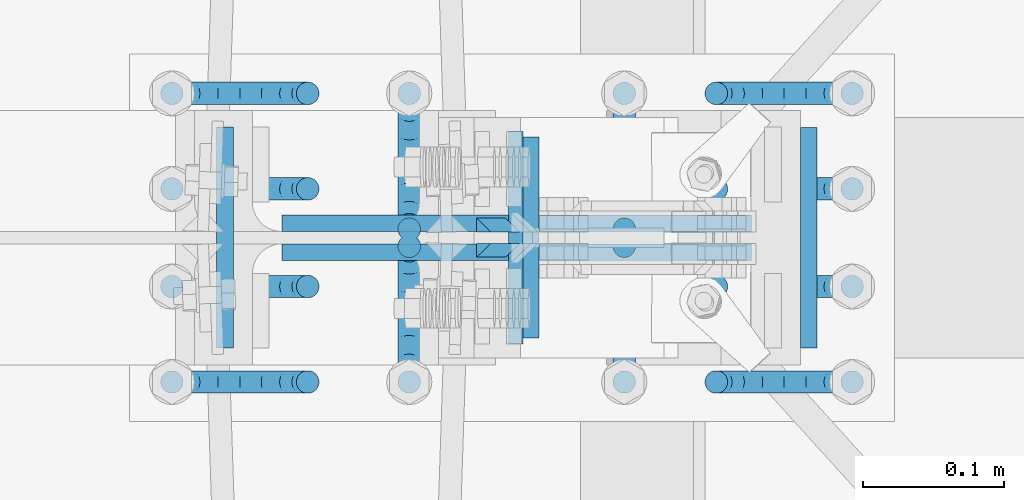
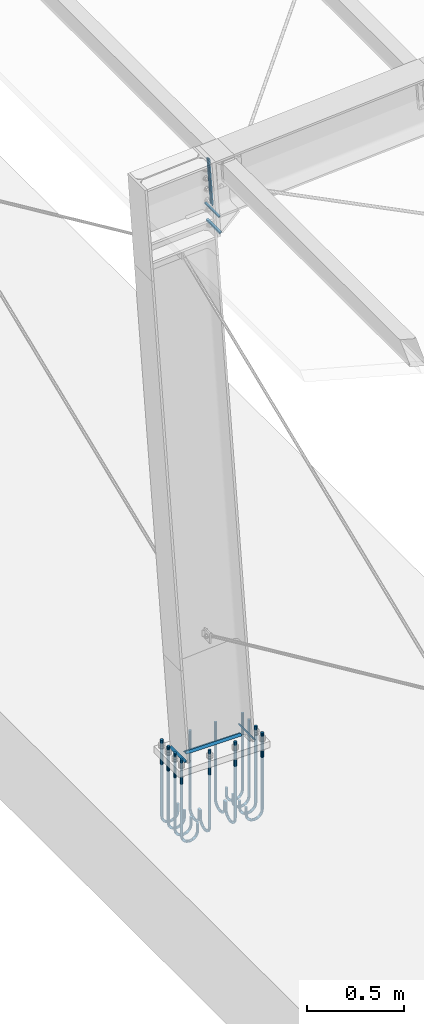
# One storey, part 19 of 72: 16 fasteners, 3 reinforcing bars.
"""IFC4 building model written with IfcOpenShell, lengths in metres."""

from ifc_helpers import new_model, entity, si_unit, frame, origin_with_axes, place, context, project, spatial, polyline, outline, extrude, source, transform, mapped, type_object, element, save


model = new_model("IFC4")

# Units and contexts
model_context = context("Model", 3, precision=1e-05, world=origin_with_axes())
ifc_project = project(units=[si_unit("LENGTHUNIT", "METRE"), si_unit("AREAUNIT", "SQUARE_METRE"), si_unit("VOLUMEUNIT", "CUBIC_METRE"), si_unit("MASSUNIT", "GRAM", prefix="KILO"), si_unit("TIMEUNIT", "SECOND"), si_unit("PLANEANGLEUNIT", "RADIAN"), si_unit("SOLIDANGLEUNIT", "STERADIAN"), si_unit("THERMODYNAMICTEMPERATUREUNIT", "DEGREE_CELSIUS")], contexts=[model_context])

# Site, building, storey
placement_1 = place(None, origin_with_axes())
site = spatial("IfcSite", under=ifc_project, at=placement_1, Name="Italia", CompositionType="ELEMENT")
building = spatial("IfcBuilding", under=site, at=placement_1, Name="Pensilina", CompositionType="ELEMENT")
storey = spatial("IfcBuildingStorey", under=building, at=placement_1, Name="Storey 0", CompositionType="ELEMENT", Elevation=0.0)

# Fasteners
fastener_type_1 = type_object("IfcFastenerType", Name="Collegamento 0004_-199", PredefinedType="WELD")
placement_2 = place(placement_1, origin_with_axes())
fastener_1_placement = place(placement_2, origin_with_axes())
element("IfcFastener", 1, at=fastener_1_placement, inside=storey, type_object=fastener_type_1, Name="Collegamento 0004_-199", context=model_context, shape_type="SweptSolid", body=[
    extrude(outline(polyline([(0.0, 0.0, 0.0), (0.0118082, 0.0121734, 0.0), (0.0118082, 0.0, 0.0), (0.0, 0.0, 0.0)])), frame((1.14428, 15.7619, 0.103658), z_axis=(0.0, 1.0, 0.0), x_axis=(-1.0, 0.0, 0.0)), (0.0, 0.0, 1.0), 0.156101),
])
fastener_type_2 = type_object("IfcFastenerType", Name="Collegamento 0004_-199", PredefinedType="WELD")
fastener_2_placement = place(placement_2, origin_with_axes())
element("IfcFastener", 2, at=fastener_2_placement, inside=storey, type_object=fastener_type_2, Name="Collegamento 0004_-199", context=model_context, shape_type="SweptSolid", body=[
    extrude(outline(polyline([(0.0, 0.0, 0.0), (0.0118082, 0.0121734, 0.0), (0.0118082, 0.0, 0.0), (0.0, 0.0, 0.0)])), frame((0.719817, 15.9181, 0.103658), z_axis=(0.0, -1.0, 0.0), x_axis=(1.0, 0.0, 0.0)), (0.0, 0.0, 1.0), 0.156101),
])
fastener_type_3 = type_object("IfcFastenerType", Name="Collegamento 0004_-199", PredefinedType="WELD")
fastener_3_placement = place(placement_2, origin_with_axes())
element("IfcFastener", 3, at=fastener_3_placement, inside=storey, type_object=fastener_type_3, Name="Collegamento 0004_-199", context=model_context, shape_type="SweptSolid", body=[
    extrude(outline(polyline([(0.0, 0.0, 0.0), (0.0118074, 0.0121734, 0.0), (0.0118074, 0.0, 0.0), (0.0, 0.0, 0.0)])), frame((0.766057, 15.8239, 0.103658), z_axis=(1.0, 0.0, 0.0), x_axis=(0.0, 1.0, 0.0)), (0.0, 0.0, 1.0), 0.331979),
])
fastener_type_4 = type_object("IfcFastenerType", Name="Collegamento 0004_-199", PredefinedType="WELD")
fastener_4_placement = place(placement_2, origin_with_axes())
element("IfcFastener", 4, at=fastener_4_placement, inside=storey, type_object=fastener_type_4, Name="Collegamento 0004_-199", context=model_context, shape_type="SweptSolid", body=[
    extrude(outline(polyline([(0.0, 0.0, 0.0), (0.0118074, 0.0121734, 0.0), (0.0118074, 0.0, 0.0), (0.0, 0.0, 0.0)])), frame((1.09804, 15.8561, 0.103658), z_axis=(-1.0, 0.0, 0.0), x_axis=(0.0, -1.0, 0.0)), (0.0, 0.0, 1.0), 0.331979),
])
fastener_type_5 = type_object("IfcFastenerType", Name="Collegamento 0004_-199", PredefinedType="WELD")
fastener_5_placement = place(placement_2, origin_with_axes())
element("IfcFastener", 5, at=fastener_5_placement, inside=storey, type_object=fastener_type_5, Name="Collegamento 0004_-199", context=model_context, shape_type="SweptSolid", body=[
    extrude(outline(polyline([(0.0, 0.0, 0.0), (0.0118082, 0.0121734, 0.0), (0.0118082, 0.0, 0.0), (0.0, 0.0, 0.0)])), frame((1.14428, 15.7619, 0.103658), z_axis=(0.0, 1.0, 0.0), x_axis=(-1.0, 0.0, 0.0)), (0.0, 0.0, 1.0), 0.156101),
])
fastener_type_6 = type_object("IfcFastenerType", Name="Collegamento 0004_-199", PredefinedType="WELD")
fastener_6_placement = place(placement_2, origin_with_axes())
element("IfcFastener", 6, at=fastener_6_placement, inside=storey, type_object=fastener_type_6, Name="Collegamento 0004_-199", context=model_context, shape_type="SweptSolid", body=[
    extrude(outline(polyline([(0.0, 0.0, 0.0), (0.0118082, 0.0121734, 0.0), (0.0118082, 0.0, 0.0), (0.0, 0.0, 0.0)])), frame((0.719817, 15.9181, 0.103658), z_axis=(0.0, -1.0, 0.0), x_axis=(1.0, 0.0, 0.0)), (0.0, 0.0, 1.0), 0.156101),
])
fastener_type_7 = type_object("IfcFastenerType", Name="Collegamento 0004_-199", PredefinedType="WELD")
fastener_7_placement = place(placement_2, origin_with_axes())
element("IfcFastener", 7, at=fastener_7_placement, inside=storey, type_object=fastener_type_7, Name="Collegamento 0004_-199", context=model_context, shape_type="SweptSolid", body=[
    extrude(outline(polyline([(0.0, 0.0, 0.0), (0.0118074, 0.0121734, 0.0), (0.0118074, 0.0, 0.0), (0.0, 0.0, 0.0)])), frame((0.766057, 15.8239, 0.103658), z_axis=(1.0, 0.0, 0.0), x_axis=(0.0, 1.0, 0.0)), (0.0, 0.0, 1.0), 0.331979),
])
fastener_type_8 = type_object("IfcFastenerType", Name="Collegamento 0004_-199", PredefinedType="WELD")
fastener_8_placement = place(placement_2, origin_with_axes())
element("IfcFastener", 8, at=fastener_8_placement, inside=storey, type_object=fastener_type_8, Name="Collegamento 0004_-199", context=model_context, shape_type="SweptSolid", body=[
    extrude(outline(polyline([(0.0, 0.0, 0.0), (0.0118074, 0.0121734, 0.0), (0.0118074, 0.0, 0.0), (0.0, 0.0, 0.0)])), frame((1.09804, 15.8561, 0.103658), z_axis=(-1.0, 0.0, 0.0), x_axis=(0.0, -1.0, 0.0)), (0.0, 0.0, 1.0), 0.331979),
])

# Reinforcing bars
shared_shape_1 = source(origin_with_axes(), model_context, "Body", "AdvancedSweptSolid", [
    entity("IfcSweptDiskSolid", entity("IfcIndexedPolyCurve", entity("IfcCartesianPointList3D", [[0.68823, 15.942, 0.153708], [0.68823, 15.942, -0.330292]]), [entity("IfcLineIndex", [1, 2])], False), 0.008),
])
reinforcing_bar_1_placement = place(placement_2, origin_with_axes())
element("IfcReinforcingBar", 9, at=reinforcing_bar_1_placement, inside=storey, BarLength=0.484, CrossSectionArea=0.00020106, NominalDiameter=0.016, context=model_context, shape_type="MappedRepresentation", body=[
    mapped(shared_shape_1, transform((0.4809, 0.0, 0.0), x_axis=(1.0, 0.0, 0.0), y_axis=(0.0, 1.0, 0.0), z_axis=(0.0, 0.0, 1.0), scale=1.0)),
    mapped(shared_shape_1, transform((0.319817, -0.204, 0.0), x_axis=(1.0, 0.0, 0.0), y_axis=(0.0, 1.0, 0.0), z_axis=(0.0, 0.0, 1.0), scale=1.0)),
    mapped(shared_shape_1, transform((0.319817, -9.53674e-07, 0.0), x_axis=(1.0, 0.0, 0.0), y_axis=(0.0, 1.0, 0.0), z_axis=(0.0, 0.0, 1.0), scale=1.0)),
    mapped(shared_shape_1, transform((0.4809, -0.204, 0.0), x_axis=(1.0, 0.0, 0.0), y_axis=(0.0, 1.0, 0.0), z_axis=(0.0, 0.0, 1.0), scale=1.0)),
    mapped(shared_shape_1, transform((0.4809, -0.1365, 0.0), x_axis=(1.0, 0.0, 0.0), y_axis=(0.0, 1.0, 0.0), z_axis=(0.0, 0.0, 1.0), scale=1.0)),
    mapped(shared_shape_1, transform((0.4809, -0.0675001, 0.0), x_axis=(1.0, 0.0, 0.0), y_axis=(0.0, 1.0, 0.0), z_axis=(0.0, 0.0, 1.0), scale=1.0)),
    mapped(shared_shape_1, transform((0.0, -0.1365, 0.0), x_axis=(1.0, 0.0, 0.0), y_axis=(0.0, 1.0, 0.0), z_axis=(0.0, 0.0, 1.0), scale=1.0)),
    mapped(shared_shape_1, transform((0.0, -0.0675001, 0.0), x_axis=(1.0, 0.0, 0.0), y_axis=(0.0, 1.0, 0.0), z_axis=(0.0, 0.0, 1.0), scale=1.0)),
    mapped(shared_shape_1, transform((0.0, 0.0, 0.0), x_axis=(1.0, 0.0, 0.0), y_axis=(0.0, 1.0, 0.0), z_axis=(0.0, 0.0, 1.0), scale=1.0)),
    mapped(shared_shape_1, transform((0.167817, -0.204, 0.0), x_axis=(1.0, 0.0, 0.0), y_axis=(0.0, 1.0, 0.0), z_axis=(0.0, 0.0, 1.0), scale=1.0)),
    mapped(shared_shape_1, transform((0.167817, -9.53674e-07, 0.0), x_axis=(1.0, 0.0, 0.0), y_axis=(0.0, 1.0, 0.0), z_axis=(0.0, 0.0, 1.0), scale=1.0)),
    mapped(shared_shape_1, transform((0.0, -0.204, 0.0), x_axis=(1.0, 0.0, 0.0), y_axis=(0.0, 1.0, 0.0), z_axis=(0.0, 0.0, 1.0), scale=1.0)),
])
shared_shape_2 = source(origin_with_axes(), model_context, "Body", "AdvancedSweptSolid", [
    entity("IfcSweptDiskSolid", entity("IfcIndexedPolyCurve", entity("IfcCartesianPointList3D", [[0.68823, 15.942, -0.330292], [0.691883, 15.942, -0.348661]]), [entity("IfcLineIndex", [1, 2])], False), 0.008),
])
reinforcing_bar_2_placement = place(placement_2, origin_with_axes())
element("IfcReinforcingBar", 10, at=reinforcing_bar_2_placement, inside=storey, BarLength=0.0187287, CrossSectionArea=0.00020106, NominalDiameter=0.016, context=model_context, shape_type="MappedRepresentation", body=[
    mapped(shared_shape_2, transform((-15.086, 16.6302, 4.30346e-05), x_axis=(0.0, -1.0, -6.24508e-05), y_axis=(1.0, 0.0, 0.0), z_axis=(0.0, -6.24508e-05, 1.0), scale=1.0)),
    mapped(shared_shape_2, transform((0.0, -0.204, 0.0), x_axis=(1.0, 0.0, 0.0), y_axis=(0.0, 1.0, 0.0), z_axis=(0.0, 0.0, 1.0), scale=1.0)),
    mapped(shared_shape_2, transform((-0.0703552, -0.0675001, -0.306886), x_axis=(0.923879, 0.0, 0.382685), y_axis=(0.0, 1.0, 0.0), z_axis=(-0.382685, 0.0, 0.923879), scale=1.0)),
    mapped(shared_shape_2, transform((-0.0703552, -0.204, -0.306886), x_axis=(0.923879, 0.0, 0.382685), y_axis=(0.0, 1.0, 0.0), z_axis=(-0.382685, 0.0, 0.923879), scale=1.0)),
    mapped(shared_shape_2, transform((0.149338, -0.0675001, -0.884083), x_axis=(0.382682, 0.0, 0.92388), y_axis=(0.0, 1.0, 0.0), z_axis=(-0.92388, 0.0, 0.382682), scale=1.0)),
    mapped(shared_shape_2, transform((-0.0179145, -0.0675001, -0.617335), x_axis=(0.707105, 0.0, 0.707108), y_axis=(0.0, 1.0, 0.0), z_axis=(-0.707108, 0.0, 0.707105), scale=1.0)),
    mapped(shared_shape_2, transform((-0.0179145, 0.0, -0.617335), x_axis=(0.707105, 0.0, 0.707108), y_axis=(0.0, 1.0, 0.0), z_axis=(-0.707108, 0.0, 0.707105), scale=1.0)),
    mapped(shared_shape_2, transform((1.29002, -0.204, -0.917183), x_axis=(-0.923881, 0.0, 0.382679), y_axis=(0.0, 1.0, 0.0), z_axis=(-0.382679, 0.0, -0.923881), scale=1.0)),
    mapped(shared_shape_2, transform((1.02327, -0.204, -1.08444), x_axis=(-0.707106, 0.0, 0.707108), y_axis=(0.0, 1.0, 0.0), z_axis=(-0.707108, 0.0, -0.707106), scale=1.0)),
    mapped(shared_shape_2, transform((0.149338, -0.204, -0.884083), x_axis=(0.382682, 0.0, 0.92388), y_axis=(0.0, 1.0, 0.0), z_axis=(-0.92388, 0.0, 0.382682), scale=1.0)),
    mapped(shared_shape_2, transform((0.405939, -0.0675001, -1.06652), x_axis=(0.0, 0.0, 1.0), y_axis=(0.0, 1.0, 0.0), z_axis=(-1.0, 0.0, 0.0), scale=1.0)),
    mapped(shared_shape_2, transform((0.712824, 0.0, -1.13688), x_axis=(-0.382684, 0.0, 0.923879), y_axis=(0.0, 1.0, 0.0), z_axis=(-0.923879, 0.0, -0.382684), scale=1.0)),
    mapped(shared_shape_2, transform((-15.086, 15.3402, -0.917173), x_axis=(0.0, 0.923889, 0.382662), y_axis=(1.0, 0.0, 0.0), z_axis=(0.0, 0.382662, -0.923889), scale=1.0)),
    mapped(shared_shape_2, transform((-15.086, 15.6069, -1.08443), x_axis=(0.0, 0.707119, 0.707095), y_axis=(1.0, 0.0, 0.0), z_axis=(0.0, 0.707095, -0.707119), scale=1.0)),
    mapped(shared_shape_2, transform((-15.086, 15.9174, -1.13688), x_axis=(0.0, 0.382666, 0.923887), y_axis=(1.0, 0.0, 0.0), z_axis=(0.0, 0.923887, -0.382666), scale=1.0)),
    mapped(shared_shape_2, transform((-14.934, 16.2243, -1.06652), x_axis=(0.0, 0.0, 1.0), y_axis=(1.0, 0.0, 0.0), z_axis=(0.0, 1.0, 0.0), scale=1.0)),
    mapped(shared_shape_2, transform((0.149338, 0.0, -0.884083), x_axis=(0.382682, 0.0, 0.92388), y_axis=(0.0, 1.0, 0.0), z_axis=(-0.92388, 0.0, 0.382682), scale=1.0)),
    mapped(shared_shape_2, transform((-15.086, 16.4809, -0.884085), x_axis=(0.0, -0.382679, 0.923881), y_axis=(1.0, 0.0, 0.0), z_axis=(0.0, 0.923881, 0.382679), scale=1.0)),
    mapped(shared_shape_2, transform((0.405939, 0.0, -1.06652), x_axis=(0.0, 0.0, 1.0), y_axis=(0.0, 1.0, 0.0), z_axis=(-1.0, 0.0, 0.0), scale=1.0)),
    mapped(shared_shape_2, transform((-0.0179145, -0.1365, -0.617335), x_axis=(0.707105, 0.0, 0.707108), y_axis=(0.0, 1.0, 0.0), z_axis=(-0.707108, 0.0, 0.707105), scale=1.0)),
    mapped(shared_shape_2, transform((-0.0703552, 0.0, -0.306886), x_axis=(0.923879, 0.0, 0.382685), y_axis=(0.0, 1.0, 0.0), z_axis=(-0.382685, 0.0, 0.923879), scale=1.0)),
    mapped(shared_shape_2, transform((-15.086, 16.6481, -0.617336), x_axis=(0.0, -0.707104, 0.70711), y_axis=(1.0, 0.0, 0.0), z_axis=(0.0, 0.70711, 0.707104), scale=1.0)),
    mapped(shared_shape_2, transform((0.712824, -0.204, -1.13688), x_axis=(-0.382684, 0.0, 0.923879), y_axis=(0.0, 1.0, 0.0), z_axis=(-0.923879, 0.0, -0.382684), scale=1.0)),
    mapped(shared_shape_2, transform((1.02327, -0.1365, -1.08444), x_axis=(-0.707106, 0.0, 0.707108), y_axis=(0.0, 1.0, 0.0), z_axis=(-0.707108, 0.0, -0.707106), scale=1.0)),
    mapped(shared_shape_2, transform((0.149338, -0.1365, -0.884083), x_axis=(0.382682, 0.0, 0.92388), y_axis=(0.0, 1.0, 0.0), z_axis=(-0.92388, 0.0, 0.382682), scale=1.0)),
    mapped(shared_shape_2, transform((-14.934, 15.3402, -0.917173), x_axis=(0.0, 0.923889, 0.382662), y_axis=(1.0, 0.0, 0.0), z_axis=(0.0, 0.382662, -0.923889), scale=1.0)),
    mapped(shared_shape_2, transform((-0.0179145, -0.204, -0.617335), x_axis=(0.707105, 0.0, 0.707108), y_axis=(0.0, 1.0, 0.0), z_axis=(-0.707108, 0.0, 0.707105), scale=1.0)),
    mapped(shared_shape_2, transform((0.0, -0.1365, 0.0), x_axis=(1.0, 0.0, 0.0), y_axis=(0.0, 1.0, 0.0), z_axis=(0.0, 0.0, 1.0), scale=1.0)),
    mapped(shared_shape_2, transform((0.405939, -0.204, -1.06652), x_axis=(0.0, 0.0, 1.0), y_axis=(0.0, 1.0, 0.0), z_axis=(-1.0, 0.0, 0.0), scale=1.0)),
    mapped(shared_shape_2, transform((1.29002, -0.1365, -0.917183), x_axis=(-0.923881, 0.0, 0.382679), y_axis=(0.0, 1.0, 0.0), z_axis=(-0.382679, 0.0, -0.923881), scale=1.0)),
    mapped(shared_shape_2, transform((0.712824, -0.1365, -1.13688), x_axis=(-0.382684, 0.0, 0.923879), y_axis=(0.0, 1.0, 0.0), z_axis=(-0.923879, 0.0, -0.382684), scale=1.0)),
    mapped(shared_shape_2, transform((1.02327, -0.0675001, -1.08444), x_axis=(-0.707106, 0.0, 0.707108), y_axis=(0.0, 1.0, 0.0), z_axis=(-0.707108, 0.0, -0.707106), scale=1.0)),
    mapped(shared_shape_2, transform((0.405939, -0.1365, -1.06652), x_axis=(0.0, 0.0, 1.0), y_axis=(0.0, 1.0, 0.0), z_axis=(-1.0, 0.0, 0.0), scale=1.0)),
    mapped(shared_shape_2, transform((1.29002, -0.0675001, -0.917183), x_axis=(-0.923881, 0.0, 0.382679), y_axis=(0.0, 1.0, 0.0), z_axis=(-0.382679, 0.0, -0.923881), scale=1.0)),
    mapped(shared_shape_2, transform((-15.086, 16.2243, -1.06652), x_axis=(0.0, 0.0, 1.0), y_axis=(1.0, 0.0, 0.0), z_axis=(0.0, 1.0, 0.0), scale=1.0)),
    mapped(shared_shape_2, transform((-14.934, 16.7006, -0.306903), x_axis=(0.0, -0.923871, 0.382705), y_axis=(1.0, 0.0, 0.0), z_axis=(0.0, 0.382705, 0.923871), scale=1.0)),
    mapped(shared_shape_2, transform((-14.934, 16.4809, -0.884085), x_axis=(0.0, -0.382679, 0.923881), y_axis=(1.0, 0.0, 0.0), z_axis=(0.0, 0.923881, 0.382679), scale=1.0)),
    mapped(shared_shape_2, transform((-14.934, 16.6481, -0.617336), x_axis=(0.0, -0.707104, 0.70711), y_axis=(1.0, 0.0, 0.0), z_axis=(0.0, 0.70711, 0.707104), scale=1.0)),
    mapped(shared_shape_2, transform((-14.934, 16.6302, 4.30346e-05), x_axis=(0.0, -1.0, -6.24508e-05), y_axis=(1.0, 0.0, 0.0), z_axis=(0.0, -6.24508e-05, 1.0), scale=1.0)),
    mapped(shared_shape_2, transform((-0.0703552, -0.1365, -0.306886), x_axis=(0.923879, 0.0, 0.382685), y_axis=(0.0, 1.0, 0.0), z_axis=(-0.382685, 0.0, 0.923879), scale=1.0)),
    mapped(shared_shape_2, transform((0.0, 0.0, 0.0), x_axis=(1.0, 0.0, 0.0), y_axis=(0.0, 1.0, 0.0), z_axis=(0.0, 0.0, 1.0), scale=1.0)),
    mapped(shared_shape_2, transform((0.0, -0.0675001, 0.0), x_axis=(1.0, 0.0, 0.0), y_axis=(0.0, 1.0, 0.0), z_axis=(0.0, 0.0, 1.0), scale=1.0)),
    mapped(shared_shape_2, transform((-14.934, 15.6069, -1.08443), x_axis=(0.0, 0.707119, 0.707095), y_axis=(1.0, 0.0, 0.0), z_axis=(0.0, 0.707095, -0.707119), scale=1.0)),
    mapped(shared_shape_2, transform((-14.934, 15.9174, -1.13688), x_axis=(0.0, 0.382666, 0.923887), y_axis=(1.0, 0.0, 0.0), z_axis=(0.0, 0.923887, -0.382666), scale=1.0)),
    mapped(shared_shape_2, transform((0.567341, 31.7475, -0.917186), x_axis=(0.923879, 0.0, 0.382685), y_axis=(0.0, -1.0, 0.0), z_axis=(0.382685, 0.0, -0.923879), scale=1.0)),
    mapped(shared_shape_2, transform((0.567341, 31.8165, -0.917186), x_axis=(0.923879, 0.0, 0.382685), y_axis=(0.0, -1.0, 0.0), z_axis=(0.382685, 0.0, -0.923879), scale=1.0)),
    mapped(shared_shape_2, transform((0.567341, 31.68, -0.917186), x_axis=(0.923879, 0.0, 0.382685), y_axis=(0.0, -1.0, 0.0), z_axis=(0.382685, 0.0, -0.923879), scale=1.0)),
    mapped(shared_shape_2, transform((0.567341, 31.884, -0.917186), x_axis=(0.923879, 0.0, 0.382685), y_axis=(0.0, -1.0, 0.0), z_axis=(0.382685, 0.0, -0.923879), scale=1.0)),
    mapped(shared_shape_2, transform((0.712824, -0.0675001, -1.13688), x_axis=(-0.382684, 0.0, 0.923879), y_axis=(0.0, 1.0, 0.0), z_axis=(-0.923879, 0.0, -0.382684), scale=1.0)),
    mapped(shared_shape_2, transform((1.14454, 31.8165, -1.13688), x_axis=(0.382683, 0.0, 0.92388), y_axis=(0.0, -1.0, 0.0), z_axis=(0.92388, 0.0, -0.382683), scale=1.0)),
    mapped(shared_shape_2, transform((0.834084, 31.7475, -1.08443), x_axis=(0.707111, 0.0, 0.707102), y_axis=(0.0, -1.0, 0.0), z_axis=(0.707102, 0.0, -0.707111), scale=1.0)),
    mapped(shared_shape_2, transform((1.29002, 0.0, -0.917183), x_axis=(-0.923881, 0.0, 0.382679), y_axis=(0.0, 1.0, 0.0), z_axis=(-0.382679, 0.0, -0.923881), scale=1.0)),
    mapped(shared_shape_2, transform((0.834084, 31.68, -1.08443), x_axis=(0.707111, 0.0, 0.707102), y_axis=(0.0, -1.0, 0.0), z_axis=(0.707102, 0.0, -0.707111), scale=1.0)),
    mapped(shared_shape_2, transform((0.834084, 31.884, -1.08443), x_axis=(0.707111, 0.0, 0.707102), y_axis=(0.0, -1.0, 0.0), z_axis=(0.707102, 0.0, -0.707111), scale=1.0)),
    mapped(shared_shape_2, transform((1.02327, 0.0, -1.08444), x_axis=(-0.707106, 0.0, 0.707108), y_axis=(0.0, 1.0, 0.0), z_axis=(-0.707108, 0.0, -0.707106), scale=1.0)),
    mapped(shared_shape_2, transform((16.798, 15.0498, 4.30346e-05), x_axis=(0.0, 1.0, -6.24508e-05), y_axis=(-1.0, 0.0, 0.0), z_axis=(0.0, 6.24508e-05, 1.0), scale=1.0)),
    mapped(shared_shape_2, transform((16.798, 14.9794, -0.306903), x_axis=(0.0, 0.923871, 0.382705), y_axis=(-1.0, 0.0, 0.0), z_axis=(0.0, -0.382705, 0.923871), scale=1.0)),
    mapped(shared_shape_2, transform((16.798, 15.0319, -0.617336), x_axis=(0.0, 0.707104, 0.70711), y_axis=(-1.0, 0.0, 0.0), z_axis=(0.0, -0.70711, 0.707104), scale=1.0)),
    mapped(shared_shape_2, transform((16.95, 15.0498, 4.30346e-05), x_axis=(0.0, 1.0, -6.24508e-05), y_axis=(-1.0, 0.0, 0.0), z_axis=(0.0, 6.24508e-05, 1.0), scale=1.0)),
    mapped(shared_shape_2, transform((1.87528, 31.68, -0.617331), x_axis=(-0.707109, 0.0, 0.707105), y_axis=(0.0, -1.0, 0.0), z_axis=(0.707105, 0.0, 0.707109), scale=1.0)),
    mapped(shared_shape_2, transform((16.95, 15.0319, -0.617336), x_axis=(0.0, 0.707104, 0.70711), y_axis=(-1.0, 0.0, 0.0), z_axis=(0.0, -0.70711, 0.707104), scale=1.0)),
    mapped(shared_shape_2, transform((16.798, 15.1991, -0.884085), x_axis=(0.0, 0.382679, 0.923881), y_axis=(-1.0, 0.0, 0.0), z_axis=(0.0, -0.923881, 0.382679), scale=1.0)),
    mapped(shared_shape_2, transform((16.95, 14.9794, -0.306903), x_axis=(0.0, 0.923871, 0.382705), y_axis=(-1.0, 0.0, 0.0), z_axis=(0.0, -0.382705, 0.923871), scale=1.0)),
    mapped(shared_shape_2, transform((1.70802, 31.68, -0.884083), x_axis=(-0.382682, 0.0, 0.92388), y_axis=(0.0, -1.0, 0.0), z_axis=(0.92388, 0.0, 0.382682), scale=1.0)),
    mapped(shared_shape_2, transform((16.95, 15.1991, -0.884085), x_axis=(0.0, 0.382679, 0.923881), y_axis=(-1.0, 0.0, 0.0), z_axis=(0.0, -0.923881, 0.382679), scale=1.0)),
    mapped(shared_shape_2, transform((16.798, 15.4557, -1.06652), x_axis=(0.0, 0.0, 1.0), y_axis=(-1.0, 0.0, 0.0), z_axis=(0.0, -1.0, 0.0), scale=1.0)),
    mapped(shared_shape_2, transform((16.798, 16.0731, -1.08443), x_axis=(0.0, -0.707119, 0.707095), y_axis=(-1.0, 0.0, 0.0), z_axis=(0.0, -0.707095, -0.707119), scale=1.0)),
    mapped(shared_shape_2, transform((16.95, 15.4557, -1.06652), x_axis=(0.0, 0.0, 1.0), y_axis=(-1.0, 0.0, 0.0), z_axis=(0.0, -1.0, 0.0), scale=1.0)),
    mapped(shared_shape_2, transform((16.798, 16.3398, -0.917173), x_axis=(0.0, -0.923889, 0.382662), y_axis=(-1.0, 0.0, 0.0), z_axis=(0.0, -0.382662, -0.923889), scale=1.0)),
    mapped(shared_shape_2, transform((1.45142, 31.68, -1.06652), x_axis=(0.0, 0.0, 1.0), y_axis=(0.0, -1.0, 0.0), z_axis=(1.0, 0.0, 0.0), scale=1.0)),
    mapped(shared_shape_2, transform((0.834084, 31.8165, -1.08443), x_axis=(0.707111, 0.0, 0.707102), y_axis=(0.0, -1.0, 0.0), z_axis=(0.707102, 0.0, -0.707111), scale=1.0)),
    mapped(shared_shape_2, transform((16.798, 15.7626, -1.13688), x_axis=(0.0, -0.382666, 0.923887), y_axis=(-1.0, 0.0, 0.0), z_axis=(0.0, -0.923887, -0.382666), scale=1.0)),
    mapped(shared_shape_2, transform((16.95, 16.3398, -0.917173), x_axis=(0.0, -0.923889, 0.382662), y_axis=(-1.0, 0.0, 0.0), z_axis=(0.0, -0.382662, -0.923889), scale=1.0)),
    mapped(shared_shape_2, transform((16.95, 16.0731, -1.08443), x_axis=(0.0, -0.707119, 0.707095), y_axis=(-1.0, 0.0, 0.0), z_axis=(0.0, -0.707095, -0.707119), scale=1.0)),
    mapped(shared_shape_2, transform((1.14454, 31.884, -1.13688), x_axis=(0.382683, 0.0, 0.92388), y_axis=(0.0, -1.0, 0.0), z_axis=(0.92388, 0.0, -0.382683), scale=1.0)),
    mapped(shared_shape_2, transform((1.14454, 31.68, -1.13688), x_axis=(0.382683, 0.0, 0.92388), y_axis=(0.0, -1.0, 0.0), z_axis=(0.92388, 0.0, -0.382683), scale=1.0)),
    mapped(shared_shape_2, transform((1.87528, 31.7475, -0.617331), x_axis=(-0.707109, 0.0, 0.707105), y_axis=(0.0, -1.0, 0.0), z_axis=(0.707105, 0.0, 0.707109), scale=1.0)),
    mapped(shared_shape_2, transform((1.45142, 31.7475, -1.06652), x_axis=(0.0, 0.0, 1.0), y_axis=(0.0, -1.0, 0.0), z_axis=(1.0, 0.0, 0.0), scale=1.0)),
    mapped(shared_shape_2, transform((1.70802, 31.7475, -0.884083), x_axis=(-0.382682, 0.0, 0.92388), y_axis=(0.0, -1.0, 0.0), z_axis=(0.92388, 0.0, 0.382682), scale=1.0)),
    mapped(shared_shape_2, transform((16.95, 15.7626, -1.13688), x_axis=(0.0, -0.382666, 0.923887), y_axis=(-1.0, 0.0, 0.0), z_axis=(0.0, -0.923887, -0.382666), scale=1.0)),
    mapped(shared_shape_2, transform((1.14454, 31.7475, -1.13688), x_axis=(0.382683, 0.0, 0.92388), y_axis=(0.0, -1.0, 0.0), z_axis=(0.92388, 0.0, -0.382683), scale=1.0)),
    mapped(shared_shape_2, transform((1.87528, 31.8165, -0.617331), x_axis=(-0.707109, 0.0, 0.707105), y_axis=(0.0, -1.0, 0.0), z_axis=(0.707105, 0.0, 0.707109), scale=1.0)),
    mapped(shared_shape_2, transform((1.70802, 31.8165, -0.884083), x_axis=(-0.382682, 0.0, 0.92388), y_axis=(0.0, -1.0, 0.0), z_axis=(0.92388, 0.0, 0.382682), scale=1.0)),
    mapped(shared_shape_2, transform((1.45142, 31.884, -1.06652), x_axis=(0.0, 0.0, 1.0), y_axis=(0.0, -1.0, 0.0), z_axis=(1.0, 0.0, 0.0), scale=1.0)),
    mapped(shared_shape_2, transform((1.45142, 31.8165, -1.06652), x_axis=(0.0, 0.0, 1.0), y_axis=(0.0, -1.0, 0.0), z_axis=(1.0, 0.0, 0.0), scale=1.0)),
    mapped(shared_shape_2, transform((1.87528, 31.884, -0.617331), x_axis=(-0.707109, 0.0, 0.707105), y_axis=(0.0, -1.0, 0.0), z_axis=(0.707105, 0.0, 0.707109), scale=1.0)),
    mapped(shared_shape_2, transform((1.70802, 31.884, -0.884083), x_axis=(-0.382682, 0.0, 0.92388), y_axis=(0.0, -1.0, 0.0), z_axis=(0.92388, 0.0, 0.382682), scale=1.0)),
    mapped(shared_shape_2, transform((-15.086, 16.7006, -0.306903), x_axis=(0.0, -0.923871, 0.382705), y_axis=(1.0, 0.0, 0.0), z_axis=(0.0, 0.382705, 0.923871), scale=1.0)),
    mapped(shared_shape_2, transform((1.85736, 31.68, 0.0), x_axis=(-1.0, 0.0, 0.0), y_axis=(0.0, -1.0, 0.0), z_axis=(0.0, 0.0, 1.0), scale=1.0)),
    mapped(shared_shape_2, transform((1.85736, 31.8165, 0.0), x_axis=(-1.0, 0.0, 0.0), y_axis=(0.0, -1.0, 0.0), z_axis=(0.0, 0.0, 1.0), scale=1.0)),
    mapped(shared_shape_2, transform((1.92771, 31.68, -0.306886), x_axis=(-0.923879, 0.0, 0.382685), y_axis=(0.0, -1.0, 0.0), z_axis=(0.382685, 0.0, 0.923879), scale=1.0)),
    mapped(shared_shape_2, transform((1.85736, 31.884, 0.0), x_axis=(-1.0, 0.0, 0.0), y_axis=(0.0, -1.0, 0.0), z_axis=(0.0, 0.0, 1.0), scale=1.0)),
    mapped(shared_shape_2, transform((1.92771, 31.884, -0.306886), x_axis=(-0.923879, 0.0, 0.382685), y_axis=(0.0, -1.0, 0.0), z_axis=(0.382685, 0.0, 0.923879), scale=1.0)),
    mapped(shared_shape_2, transform((1.92771, 31.8165, -0.306886), x_axis=(-0.923879, 0.0, 0.382685), y_axis=(0.0, -1.0, 0.0), z_axis=(0.382685, 0.0, 0.923879), scale=1.0)),
    mapped(shared_shape_2, transform((1.92771, 31.7475, -0.306886), x_axis=(-0.923879, 0.0, 0.382685), y_axis=(0.0, -1.0, 0.0), z_axis=(0.382685, 0.0, 0.923879), scale=1.0)),
    mapped(shared_shape_2, transform((1.85736, 31.7475, 0.0), x_axis=(-1.0, 0.0, 0.0), y_axis=(0.0, -1.0, 0.0), z_axis=(0.0, 0.0, 1.0), scale=1.0)),
])
shared_shape_3 = source(origin_with_axes(), model_context, "Body", "AdvancedSweptSolid", [
    entity("IfcSweptDiskSolid", entity("IfcIndexedPolyCurve", entity("IfcCartesianPointList3D", [[0.78423, 15.942, -0.330291], [0.78423, 15.942, -0.282292]]), [entity("IfcLineIndex", [1, 2])], False), 0.008),
])
reinforcing_bar_3_placement = place(placement_2, origin_with_axes())
element("IfcReinforcingBar", 11, at=reinforcing_bar_3_placement, inside=storey, BarLength=0.0479995, CrossSectionArea=0.00020106, NominalDiameter=0.016, context=model_context, shape_type="MappedRepresentation", body=[
    mapped(shared_shape_3, transform((0.2889, 0.0, 0.0), x_axis=(1.0, 0.0, 0.0), y_axis=(0.0, 1.0, 0.0), z_axis=(0.0, 0.0, 1.0), scale=1.0)),
    mapped(shared_shape_3, transform((0.223817, -0.108001, 0.0), x_axis=(1.0, 0.0, 0.0), y_axis=(0.0, 1.0, 0.0), z_axis=(0.0, 0.0, 1.0), scale=1.0)),
    mapped(shared_shape_3, transform((0.223817, -0.0959997, 0.0), x_axis=(1.0, 0.0, 0.0), y_axis=(0.0, 1.0, 0.0), z_axis=(0.0, 0.0, 1.0), scale=1.0)),
    mapped(shared_shape_3, transform((0.2889, -0.204, 0.0), x_axis=(1.0, 0.0, 0.0), y_axis=(0.0, 1.0, 0.0), z_axis=(0.0, 0.0, 1.0), scale=1.0)),
    mapped(shared_shape_3, transform((0.2889, -0.1365, 0.0), x_axis=(1.0, 0.0, 0.0), y_axis=(0.0, 1.0, 0.0), z_axis=(0.0, 0.0, 1.0), scale=1.0)),
    mapped(shared_shape_3, transform((0.2889, -0.0675001, 0.0), x_axis=(1.0, 0.0, 0.0), y_axis=(0.0, 1.0, 0.0), z_axis=(0.0, 0.0, 1.0), scale=1.0)),
    mapped(shared_shape_3, transform((0.0, -0.1365, 0.0), x_axis=(1.0, 0.0, 0.0), y_axis=(0.0, 1.0, 0.0), z_axis=(0.0, 0.0, 1.0), scale=1.0)),
    mapped(shared_shape_3, transform((0.0, -0.0675001, 0.0), x_axis=(1.0, 0.0, 0.0), y_axis=(0.0, 1.0, 0.0), z_axis=(0.0, 0.0, 1.0), scale=1.0)),
    mapped(shared_shape_3, transform((0.0, 0.0, 0.0), x_axis=(1.0, 0.0, 0.0), y_axis=(0.0, 1.0, 0.0), z_axis=(0.0, 0.0, 1.0), scale=1.0)),
    mapped(shared_shape_3, transform((0.0718169, -0.108001, 0.0), x_axis=(1.0, 0.0, 0.0), y_axis=(0.0, 1.0, 0.0), z_axis=(0.0, 0.0, 1.0), scale=1.0)),
    mapped(shared_shape_3, transform((0.0718169, -0.0959997, 0.0), x_axis=(1.0, 0.0, 0.0), y_axis=(0.0, 1.0, 0.0), z_axis=(0.0, 0.0, 1.0), scale=1.0)),
    mapped(shared_shape_3, transform((0.0, -0.204, 0.0), x_axis=(1.0, 0.0, 0.0), y_axis=(0.0, 1.0, 0.0), z_axis=(0.0, 0.0, 1.0), scale=1.0)),
])

# Fasteners
fastener_type_9 = type_object("IfcFastenerType", Name="Collegamento 0104_0204", PredefinedType="WELD")
fastener_9_placement = place(placement_2, origin_with_axes())
element("IfcFastener", 12, at=fastener_9_placement, inside=storey, type_object=fastener_type_9, Name="Collegamento 0104_0204", context=model_context, shape_type="SweptSolid", body=[
    extrude(outline(polyline([(0.0, 0.0, 0.0), (-0.00947303, 0.0105422, 0.0), (0.000676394, 0.00984478, 0.0), (0.0, 0.0, 0.0)])), frame((0.926961, 15.7649, 3.45975), z_axis=(0.0, 1.0, 0.0), x_axis=(-1.0, 0.0, 0.0)), (0.0, 0.0, 1.0), 0.150101),
])
fastener_type_10 = type_object("IfcFastenerType", Name="Collegamento 0104_0204", PredefinedType="WELD")
fastener_10_placement = place(placement_2, origin_with_axes())
element("IfcFastener", 13, at=fastener_10_placement, inside=storey, type_object=fastener_type_10, Name="Collegamento 0104_0204", context=model_context, shape_type="SweptSolid", body=[
    extrude(outline(polyline([(0.0, 0.0, 0.0), (0.00986767, 0.0101733, 0.0), (0.00986767, 0.0, 0.0), (0.0, 0.0, 0.0)])), frame((0.924187, 15.8538, 3.50013), z_axis=(-0.068540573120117, 0.0, 0.997648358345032), x_axis=(0.0, -1.0, 0.0)), (0.0, 0.0, 1.0), 0.2987),
])
fastener_type_11 = type_object("IfcFastenerType", Name="Collegamento 0104_0204", PredefinedType="WELD")
fastener_11_placement = place(placement_2, origin_with_axes())
element("IfcFastener", 14, at=fastener_11_placement, inside=storey, type_object=fastener_type_11, Name="Collegamento 0104_0204", context=model_context, shape_type="SweptSolid", body=[
    extrude(outline(polyline([(0.0, 0.0, 0.0), (0.00986767, 0.0101733, 0.0), (0.00986767, 0.0, 0.0), (0.0, 0.0, 0.0)])), frame((0.903714, 15.8262, 3.79813), z_axis=(0.068540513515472, 0.0, -0.997648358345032), x_axis=(0.0, 1.0, 0.0)), (0.0, 0.0, 1.0), 0.2987),
])
fastener_type_12 = type_object("IfcFastenerType", Name="Collegamento 0104_0204", PredefinedType="WELD")
fastener_12_placement = place(placement_2, origin_with_axes())
element("IfcFastener", 15, at=fastener_12_placement, inside=storey, type_object=fastener_type_12, Name="Collegamento 0104_0204", context=model_context, shape_type="SweptSolid", body=[
    extrude(outline(polyline([(0.0, 0.0, 0.0), (-0.0131977, 0.0146873, 0.0), (0.00094229, 0.013716, 0.0), (0.0, 0.0, 0.0)])), frame((0.934492, 15.769, 3.35013), z_axis=(0.0, 1.0, 0.0), x_axis=(-1.0, 0.0, 0.0)), (0.0, 0.0, 1.0), 0.142099),
])
fastener_type_13 = type_object("IfcFastenerType", Name="Collegamento 0104_0204", PredefinedType="WELD")
fastener_13_placement = place(placement_2, origin_with_axes())
element("IfcFastener", 16, at=fastener_13_placement, inside=storey, type_object=fastener_type_13, Name="Collegamento 0104_0204", context=model_context, shape_type="SweptSolid", body=[
    extrude(outline(polyline([(0.0, 0.0, 0.0), (-0.00947303, 0.0105422, 0.0), (0.000676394, 0.00984478, 0.0), (0.0, 0.0, 0.0)])), frame((0.926961, 15.7649, 3.45975), z_axis=(0.0, 1.0, 0.0), x_axis=(-1.0, 0.0, 0.0)), (0.0, 0.0, 1.0), 0.150101),
])
fastener_type_14 = type_object("IfcFastenerType", Name="Collegamento 0104_0204", PredefinedType="WELD")
fastener_14_placement = place(placement_2, origin_with_axes())
element("IfcFastener", 17, at=fastener_14_placement, inside=storey, type_object=fastener_type_14, Name="Collegamento 0104_0204", context=model_context, shape_type="SweptSolid", body=[
    extrude(outline(polyline([(0.0, 0.0, 0.0), (0.00986767, 0.0101733, 0.0), (0.00986767, 0.0, 0.0), (0.0, 0.0, 0.0)])), frame((0.924187, 15.8538, 3.50013), z_axis=(-0.068540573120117, 0.0, 0.997648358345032), x_axis=(0.0, -1.0, 0.0)), (0.0, 0.0, 1.0), 0.2987),
])
fastener_type_15 = type_object("IfcFastenerType", Name="Collegamento 0104_0204", PredefinedType="WELD")
fastener_15_placement = place(placement_2, origin_with_axes())
element("IfcFastener", 18, at=fastener_15_placement, inside=storey, type_object=fastener_type_15, Name="Collegamento 0104_0204", context=model_context, shape_type="SweptSolid", body=[
    extrude(outline(polyline([(0.0, 0.0, 0.0), (0.00986767, 0.0101733, 0.0), (0.00986767, 0.0, 0.0), (0.0, 0.0, 0.0)])), frame((0.903714, 15.8262, 3.79813), z_axis=(0.068540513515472, 0.0, -0.997648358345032), x_axis=(0.0, 1.0, 0.0)), (0.0, 0.0, 1.0), 0.2987),
])
fastener_type_16 = type_object("IfcFastenerType", Name="Collegamento 0104_0204", PredefinedType="WELD")
fastener_16_placement = place(placement_2, origin_with_axes())
element("IfcFastener", 19, at=fastener_16_placement, inside=storey, type_object=fastener_type_16, Name="Collegamento 0104_0204", context=model_context, shape_type="SweptSolid", body=[
    extrude(outline(polyline([(0.0, 0.0, 0.0), (-0.0131977, 0.0146873, 0.0), (0.00094229, 0.013716, 0.0), (0.0, 0.0, 0.0)])), frame((0.934492, 15.769, 3.35013), z_axis=(0.0, 1.0, 0.0), x_axis=(-1.0, 0.0, 0.0)), (0.0, 0.0, 1.0), 0.142099),
])

save(model, "model.ifc")
